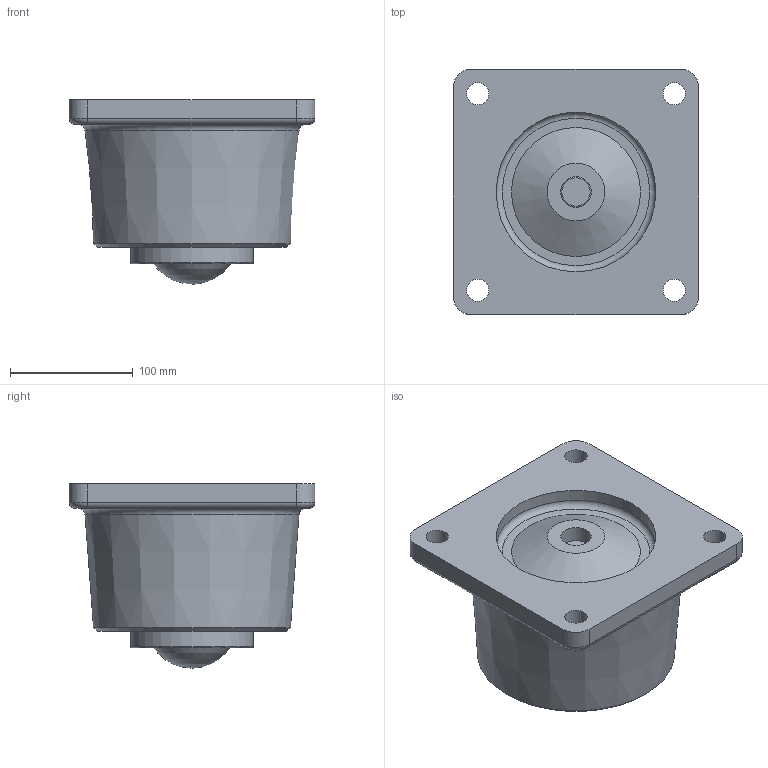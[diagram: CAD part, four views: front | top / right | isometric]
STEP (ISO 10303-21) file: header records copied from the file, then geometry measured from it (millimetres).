
FILE_DESCRIPTION(/* description */ (''),/* implementation_level */ '2;1');
FILE_NAME(/* name */ 'Z:\80-CAD共有ファイル\製品3D\X2\30C730FC30BF\X0\\11-IK\IK-76.stp',/* time_stamp */ '2015-01-07T09:34:40+09:00',/* author */ ('yamaki'),/* organization */ (''),/* preprocessor_version */ 'ST-DEVELOPER v15.6',/* originating_system */ 'Autodesk Inventor 2015',/* authorisation */ '');
FILE_SCHEMA (('AUTOMOTIVE_DESIGN { 1 0 10303 214 3 1 1 }'));
Length unit declared in the file: millimetre
Products named in the file (1): 1176AA
Bounding box: 200 x 200 x 150 mm (x, y, z)
Volume: 2927937.3 mm3; surface area: 168368.1 mm2
Topology: 1 solids, 1 shells, 64 faces, 150 edges, 95 vertices
Faces by surface type: cylinder 24, plane 23, torus 11, cone 5, sphere 1
Full cylindrical faces by diameter (mm): 3.5 x2, 18 x4, 25 x1, 65 x1, 100 x1, 130 x2
Entity records: 1753 total; most frequent: DIRECTION 316, CARTESIAN_POINT 267, ORIENTED_EDGE 232, AXIS2_PLACEMENT_3D 135, EDGE_CURVE 116, EDGE_LOOP 106, VERTEX_POINT 86, CIRCLE 70
